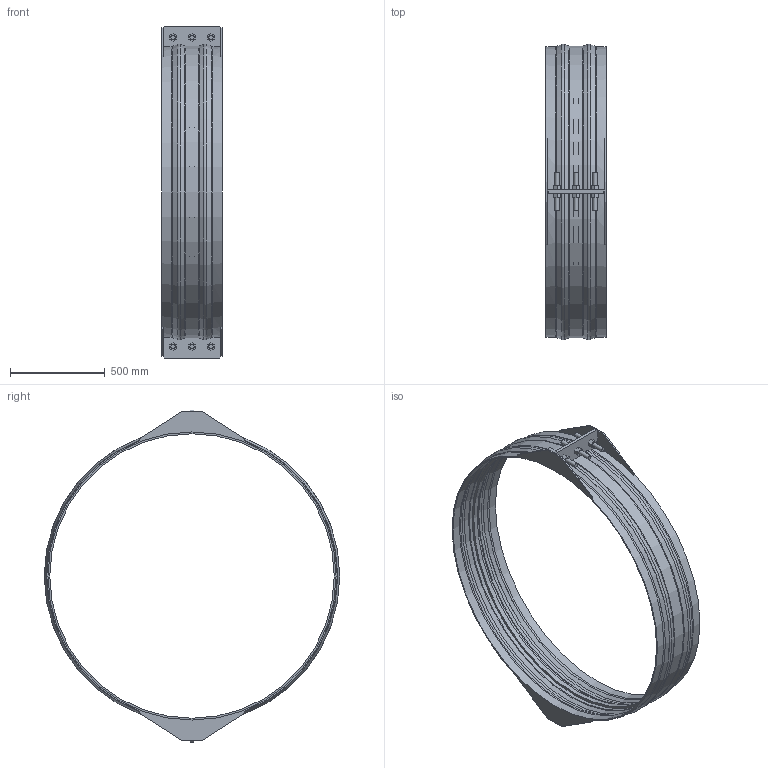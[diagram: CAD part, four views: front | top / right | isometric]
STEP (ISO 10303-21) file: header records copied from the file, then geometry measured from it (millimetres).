
FILE_DESCRIPTION(/* description */ ('VIC SS RESTRAINED COUPLING STYLE 233S (FLEX) (BRD)','CAx-IF Rec.Pracs.---Representation and Presentation of Product Manufacturing Information (PMI)---4.0---2014-10-13'),/* implementation_level */ '2;1');
FILE_NAME(/* name */ 'C:\Users\kkamble\AppData\Roaming\Autodesk\ApplicationPlugins\Back Up\Victaulic_VBSP_Coupling Flexible Restrained_Style 233S (BRD)\Victaulic_VBSP_Coupling Flexible Restrained_Style 233S (BRD)_50psi_60 (1500).stp',/* time_stamp */ '2020-09-22T18:30:31+05:00',/* author */ ('Vjadhav'),/* organization */ ('Victaulic'),/* preprocessor_version */ 'ST-DEVELOPER v17.2',/* originating_system */ 'Autodesk Inventor 2019',/* authorisation */ '');
FILE_SCHEMA (('AP242_MANAGED_MODEL_BASED_3D_ENGINEERING_MIM_LF { 1 0 10303 442 1 1 4 }'));
Length unit declared in the file: inch
Products named in the file (1): Style_233S_Type_2_50psi-60.0
Bounding box: 317.5 x 1563.39 x 1756.41 mm (x, y, z)
Volume: 14188778.1 mm3; surface area: 3810284.6 mm2
Topology: 1 solids, 1 shells, 211 faces, 557 edges, 374 vertices
Faces by surface type: plane 142, cylinder 39, torus 18, cone 12
Full cylindrical faces by diameter (mm): 22.225 x12, 1504.95 x1, 1524 x2, 1530.35 x2
Entity records: 7048 total; most frequent: CARTESIAN_POINT 1352, DIRECTION 1127, ORIENTED_EDGE 1114, EDGE_CURVE 557, LINE 389, VECTOR 389, VERTEX_POINT 374, AXIS2_PLACEMENT_3D 369
